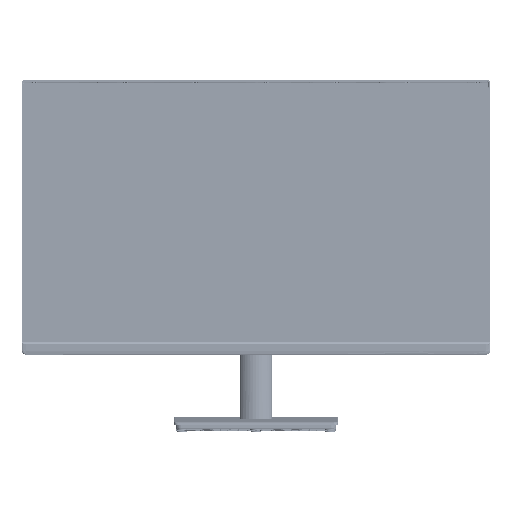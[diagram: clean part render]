
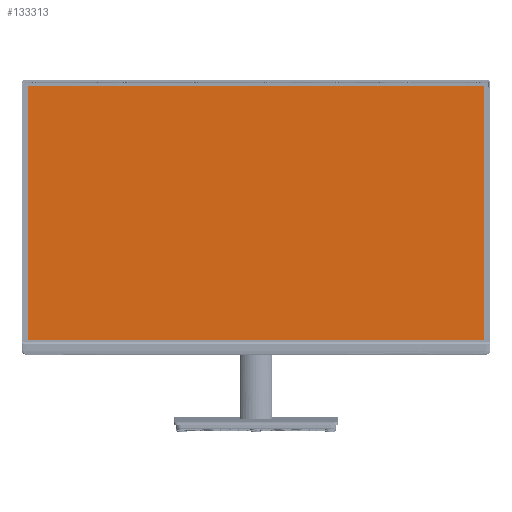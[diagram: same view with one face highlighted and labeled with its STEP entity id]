
A CAD part, top view. The second image highlights one B-rep face of the part: STEP entity #133313.
In plain terms, the highlighted planar face has unit normal (0, 0, 1).
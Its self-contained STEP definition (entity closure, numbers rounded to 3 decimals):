
#48313=DIRECTION('',(0.,1.,0.));
#48314=VECTOR('',#48313,302.616);
#48315=CARTESIAN_POINT('',(271.872,-151.308,0.45));
#48316=LINE('',#48315,#48314);
#48317=DIRECTION('',(1.,0.,0.));
#48318=VECTOR('',#48317,543.744);
#48319=CARTESIAN_POINT('',(-271.872,-151.308,0.45));
#48320=LINE('',#48319,#48318);
#48321=DIRECTION('',(0.,-1.,0.));
#48322=VECTOR('',#48321,302.616);
#48323=CARTESIAN_POINT('',(-271.872,151.308,0.45));
#48324=LINE('',#48323,#48322);
#48325=DIRECTION('',(-1.,0.,0.));
#48326=VECTOR('',#48325,543.744);
#48327=CARTESIAN_POINT('',(271.872,151.308,0.45));
#48328=LINE('',#48327,#48326);
#60648=CARTESIAN_POINT('',(271.872,-151.308,0.45));
#60649=CARTESIAN_POINT('',(271.872,151.308,0.45));
#60650=VERTEX_POINT('',#60648);
#60651=VERTEX_POINT('',#60649);
#60652=CARTESIAN_POINT('',(-271.872,151.308,0.45));
#60653=VERTEX_POINT('',#60652);
#60654=CARTESIAN_POINT('',(-271.872,-151.308,0.45));
#60655=VERTEX_POINT('',#60654);
#133302=CARTESIAN_POINT('',(0.,0.,0.45));
#133303=DIRECTION('',(0.,0.,1.));
#133304=DIRECTION('',(-1.,0.,0.));
#133305=AXIS2_PLACEMENT_3D('',#133302,#133303,#133304);
#133306=PLANE('',#133305);
#133307=ORIENTED_EDGE('',*,*,#133254,.F.);
#133308=ORIENTED_EDGE('',*,*,#133269,.F.);
#133309=ORIENTED_EDGE('',*,*,#133283,.F.);
#133310=ORIENTED_EDGE('',*,*,#133296,.F.);
#133311=EDGE_LOOP('',(#133307,#133308,#133309,#133310));
#133312=FACE_OUTER_BOUND('',#133311,.F.);
#133254=EDGE_CURVE('',#60650,#60651,#48316,.T.);
#133269=EDGE_CURVE('',#60655,#60650,#48320,.T.);
#133283=EDGE_CURVE('',#60653,#60655,#48324,.T.);
#133296=EDGE_CURVE('',#60651,#60653,#48328,.T.);
#133313=ADVANCED_FACE('',(#133312),#133306,.T.);
